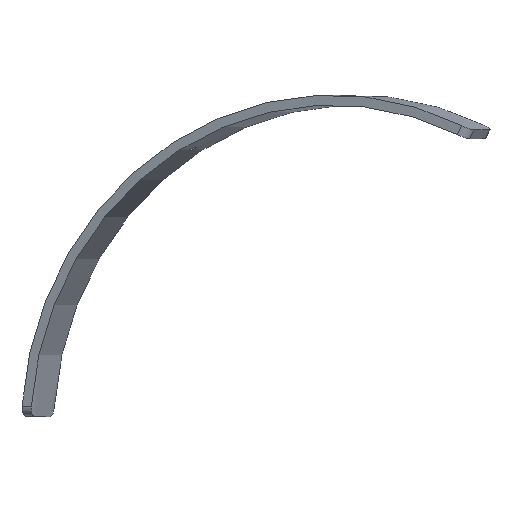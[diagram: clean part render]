
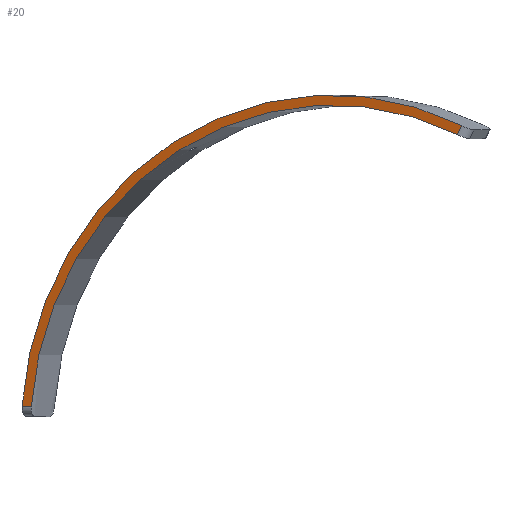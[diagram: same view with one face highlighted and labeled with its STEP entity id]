
A CAD part, front view. The second image highlights one B-rep face of the part: STEP entity #20.
In plain terms, the highlighted planar face has unit normal (-0.383, -0.924, 0).
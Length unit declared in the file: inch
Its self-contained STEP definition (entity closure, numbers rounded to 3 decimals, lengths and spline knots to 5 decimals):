
#2 = EDGE_LOOP ( 'NONE', ( #439, #568, #280, #343 ) ) ;
#20 = ADVANCED_FACE ( 'NONE', ( #165 ), #620, .F. ) ;
#42 = VERTEX_POINT ( 'NONE', #560 ) ;
#44 = VECTOR ( 'NONE', #671, 39.37008 ) ;
#74 = CARTESIAN_POINT ( 'NONE',  ( 121.86354, -53.72471, 29.58335 ) ) ;
#82 = AXIS2_PLACEMENT_3D ( 'NONE', #376, #362, #601 ) ;
#97 = DIRECTION ( 'NONE',  ( -0.383, -0.924, 0. ) ) ;
#131 = VERTEX_POINT ( 'NONE', #221 ) ;
#148 = CARTESIAN_POINT ( 'NONE',  ( 109.37573, -48.55209, 0. ) ) ;
#158 = AXIS2_PLACEMENT_3D ( 'NONE', #219, #97, #549 ) ;
#161 = EDGE_CURVE ( 'NONE', #485, #42, #728, .T. ) ;
#165 = FACE_OUTER_BOUND ( 'NONE', #2, .T. ) ;
#192 = CIRCLE ( 'NONE', #158, 33.525 ) ;
#219 = CARTESIAN_POINT ( 'NONE',  ( 109.37573, -48.55209, 0. ) ) ;
#220 = CIRCLE ( 'NONE', #82, 32.525 ) ;
#221 = CARTESIAN_POINT ( 'NONE',  ( 79.41532, -36.14208, 2.49823 ) ) ;
#280 = ORIENTED_EDGE ( 'NONE', *, *, #407, .F. ) ;
#331 = DIRECTION ( 'NONE',  ( 0.383, 0.924, 0. ) ) ;
#343 = ORIENTED_EDGE ( 'NONE', *, *, #161, .T. ) ;
#362 = DIRECTION ( 'NONE',  ( -0.383, -0.924, 0. ) ) ;
#376 = CARTESIAN_POINT ( 'NONE',  ( 109.37573, -48.55209, 0. ) ) ;
#382 = DIRECTION ( 'NONE',  ( -0.924, 0.383, 0. ) ) ;
#407 = EDGE_CURVE ( 'NONE', #485, #131, #220, .T. ) ;
#425 = AXIS2_PLACEMENT_3D ( 'NONE', #148, #331, #382 ) ;
#430 = CARTESIAN_POINT ( 'NONE',  ( 108.54761, -48.20907, 0.44335 ) ) ;
#439 = ORIENTED_EDGE ( 'NONE', *, *, #579, .T. ) ;
#459 = DIRECTION ( 'NONE',  ( 0.923, -0.382, -0.046 ) ) ;
#485 = VERTEX_POINT ( 'NONE', #74 ) ;
#549 = DIRECTION ( 'NONE',  ( 0.924, -0.383, 0. ) ) ;
#560 = CARTESIAN_POINT ( 'NONE',  ( 122.27332, -53.89445, 30.48011 ) ) ;
#568 = ORIENTED_EDGE ( 'NONE', *, *, #717, .T. ) ;
#577 = CARTESIAN_POINT ( 'NONE',  ( 109.41834, -48.56974, 0.99894 ) ) ;
#579 = EDGE_CURVE ( 'NONE', #42, #639, #192, .T. ) ;
#588 = VECTOR ( 'NONE', #459, 39.37008 ) ;
#601 = DIRECTION ( 'NONE',  ( 0.924, -0.383, 0. ) ) ;
#620 = PLANE ( 'NONE',  #425 ) ;
#628 = CARTESIAN_POINT ( 'NONE',  ( 78.492, -35.75963, 2.54437 ) ) ;
#639 = VERTEX_POINT ( 'NONE', #628 ) ;
#671 = DIRECTION ( 'NONE',  ( 0.41, -0.17, 0.896 ) ) ;
#717 = EDGE_CURVE ( 'NONE', #639, #131, #753, .T. ) ;
#728 = LINE ( 'NONE', #430, #44 ) ;
#753 = LINE ( 'NONE', #577, #588 ) ;
